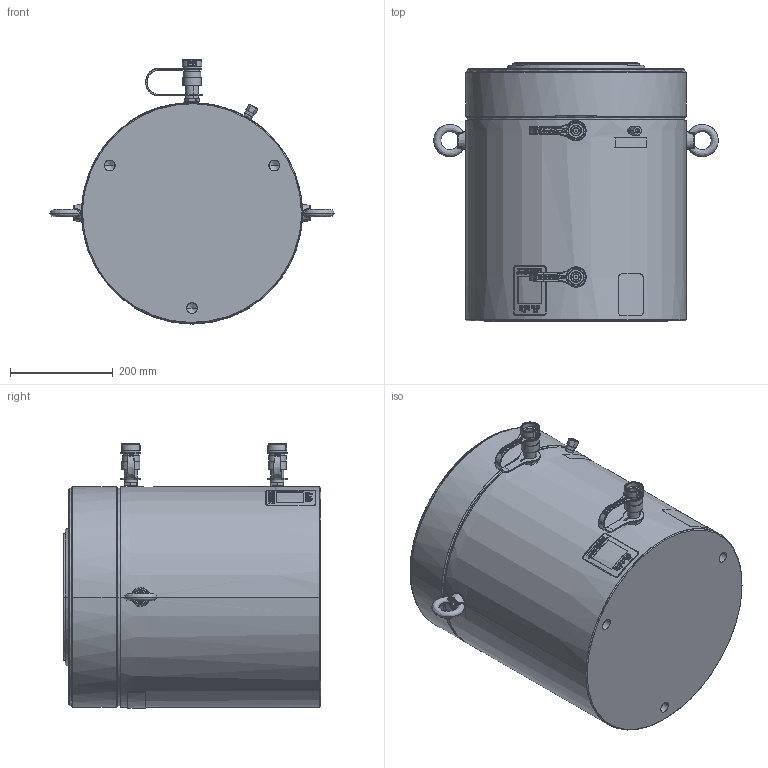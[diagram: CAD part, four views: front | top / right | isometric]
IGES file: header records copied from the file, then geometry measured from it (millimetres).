
Start section:  PTC IGES file: hcr6008.igs
Global section: file name: hcr6008.igs; native system: Creo Parametric by PTC Inc.; preprocessor: 2015290; author: Akhilesh.Subrahmanya; organization: Unknown; date: 20170629.131645; units: millimetre
Bounding box: 553.98 x 502 x 513.93 mm (x, y, z)
Surface area: 1359878.8 mm2 (no closed solid volume)
Topology: 0 solids, 0 shells, 759 faces, 6878 edges, 6866 vertices
Faces by surface type: revolution 438, bspline 317, extrusion 4
